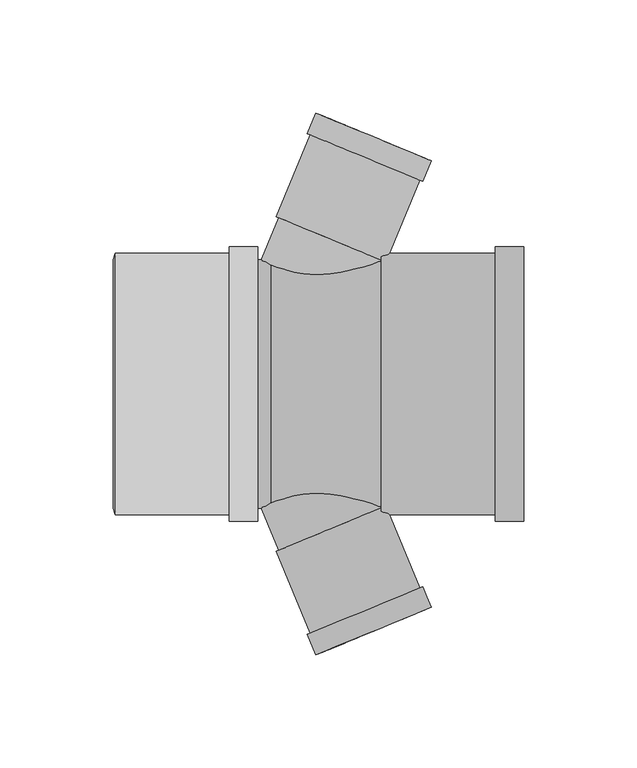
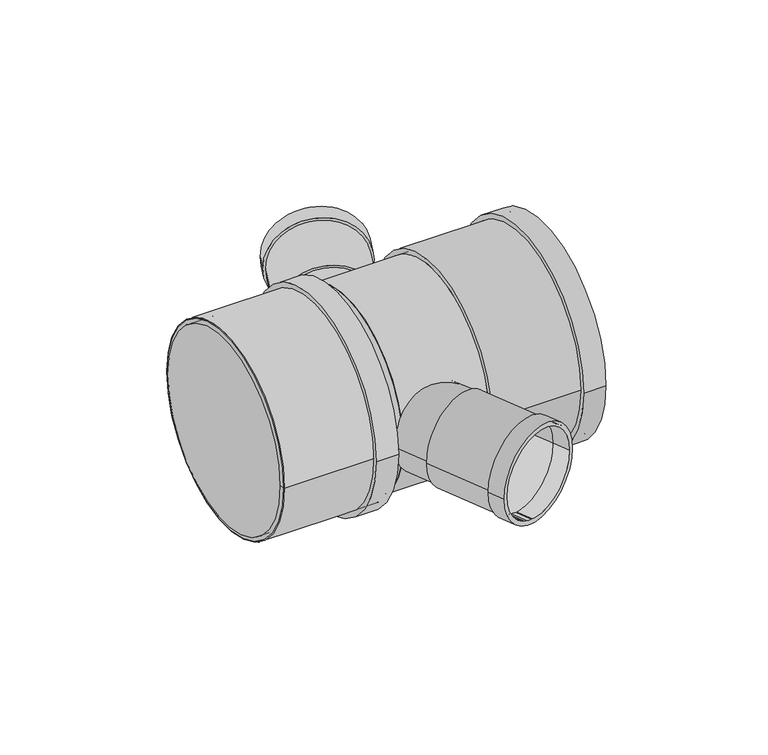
"""IFC4 building model written with IfcOpenShell, lengths in millimetres: pipe fitting geometry, Superdrain HTDA-Double Branch : Superdrain HTDA-Double Branch."""

from ifc_helpers import new_model, si_unit, point, frame, origin, origin_2d, place, context, project, spatial, polyline, circle_curve, trimmed, segment, composite_curve, outline, extrude, source, transform, mapped, element, save
from ifc_brep_helpers import plane_surface, revolved_surface, advanced_brep


def pipe_fitting_7653bf81(model_context):
    return source(origin(), model_context, "Body", "SolidModel", [
        extrude(outline(composite_curve([segment(trimmed(circle_curve(origin_2d(), 57.75), [point((57.75, 0.0))], [point((-57.75, 0.0))], False, "CARTESIAN"), True, "CONTINUOUS"), segment(trimmed(circle_curve(origin_2d(), 57.75), [point((-57.75, 0.0))], [point((57.75, 0.0))], False, "CARTESIAN"), True, "CONTINUOUS")], self_intersect=False), holes=[composite_curve([segment(trimmed(circle_curve(origin_2d(), 55.0), [point((55.0, 0.0))], [point((-55.0, 0.0))], True, "CARTESIAN"), True, "CONTINUOUS"), segment(trimmed(circle_curve(origin_2d(), 55.0), [point((-55.0, 0.0))], [point((55.0, 0.0))], True, "CARTESIAN"), True, "CONTINUOUS")], self_intersect=False)]), frame((-68.9, 0.0, 0.0), z_axis=(1.0, 0.0, 0.0), x_axis=(0.0, 1.0, 0.0)), (0.0, 0.0, 1.0), 63.0),
        extrude(outline(composite_curve([segment(trimmed(circle_curve(origin_2d(), 60.6375), [point((60.6375, 0.0))], [point((-60.6375, 0.0))], False, "CARTESIAN"), True, "CONTINUOUS"), segment(trimmed(circle_curve(origin_2d(), 60.6375), [point((-60.6375, 0.0))], [point((60.6375, 0.0))], False, "CARTESIAN"), True, "CONTINUOUS")], self_intersect=False), holes=[composite_curve([segment(trimmed(circle_curve(origin_2d(), 55.0), [point((55.0, 0.0))], [point((-55.0, 0.0))], True, "CARTESIAN"), True, "CONTINUOUS"), segment(trimmed(circle_curve(origin_2d(), 55.0), [point((-55.0, 0.0))], [point((55.0, 0.0))], True, "CARTESIAN"), True, "CONTINUOUS")], self_intersect=False)]), frame((-18.5, 0.0, 0.0), z_axis=(1.0, 0.0, 0.0), x_axis=(0.0, 1.0, 0.0)), (0.0, 0.0, 1.0), 12.6),
        advanced_brep(
        [(-69.9, 55.0, 0.0), (-69.9, -55.0, 0.0), (-68.9, 57.75, 0.0), (-68.9, -57.75, 0.0)],
        [
            (0, 1, circle_curve(frame((-69.9, 0.0, 0.0), z_axis=(-1.0, 0.0, 0.0), x_axis=(0.0, 1.0, 0.0)), 55.0)),
            (1, 0, circle_curve(frame((-69.9, 0.0, 0.0), z_axis=(-1.0, 0.0, 0.0), x_axis=(0.0, -1.0, 0.0)), 55.0)),
            (2, 3, circle_curve(frame((-68.9, 0.0, 0.0), z_axis=(1.0, 0.0, 0.0), x_axis=(0.0, -1.0, 0.0)), 57.75)),
            (3, 2, circle_curve(frame((-68.9, 0.0, 0.0), z_axis=(1.0, 0.0, 0.0), x_axis=(0.0, 1.0, 0.0)), 57.75)),
            (3, 1),
            (0, 2),
        ],
        [
            plane_surface(frame((-69.9, 0.0, 0.0), z_axis=(-1.0, 0.0, 0.0), x_axis=(0.0, 0.0, -1.0))),
            plane_surface(frame((-68.9, 0.0, 0.0), z_axis=(1.0, 0.0, 0.0), x_axis=(0.0, 0.0, -1.0))),
            revolved_surface(polyline([(-69.9, 55.0, 0.0), (-68.9, 57.75, 0.0)]), (-89.9, 0.0, 0.0), (1.0, 0.0, 0.0)),
            revolved_surface(polyline([(-69.9, -55.0, 0.0), (-68.9, -57.75, 0.0)]), (-89.9, 0.0, 0.0), (1.0, 0.0, 0.0)),
        ],
        [
            (0, [[1, 2]]),
            (1, [[3, 4]]),
            (2, [[-4, 5, -1, 6]]),
            (3, [[-3, -6, -2, -5]]),
        ],
    ),
        extrude(outline(composite_curve([segment(trimmed(circle_curve(origin_2d(), 27.5625), [point((0.0, -27.5625))], [point((0.0, 27.5625))], False, "CARTESIAN"), True, "CONTINUOUS"), segment(trimmed(circle_curve(origin_2d(), 27.5625), [point((0.0, 27.5625))], [point((0.0, -27.5625))], False, "CARTESIAN"), True, "CONTINUOUS")], self_intersect=False), holes=[composite_curve([segment(trimmed(circle_curve(origin_2d(), 25.0), [point((0.0, -25.0))], [point((0.0, 25.0))], True, "CARTESIAN"), True, "CONTINUOUS"), segment(trimmed(circle_curve(origin_2d(), 25.0), [point((0.0, 25.0))], [point((0.0, -25.0))], True, "CARTESIAN"), True, "CONTINUOUS")], self_intersect=False)]), frame((45.2331817, -109.2025607, 0.0), z_axis=(-0.3826834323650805, 0.9238795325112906, 0.0), x_axis=(0.0, 0.0, 1.0)), (0.0, 0.0, 1.0), 9.8),
        extrude(outline(composite_curve([segment(trimmed(circle_curve(origin_2d(), 26.25), [point((0.0, -26.25))], [point((0.0, 26.25))], False, "CARTESIAN"), True, "CONTINUOUS"), segment(trimmed(circle_curve(origin_2d(), 26.25), [point((0.0, 26.25))], [point((0.0, -26.25))], False, "CARTESIAN"), True, "CONTINUOUS")], self_intersect=False), holes=[composite_curve([segment(trimmed(circle_curve(origin_2d(), 25.0), [point((0.0, -25.0))], [point((0.0, 25.0))], True, "CARTESIAN"), True, "CONTINUOUS"), segment(trimmed(circle_curve(origin_2d(), 25.0), [point((0.0, 25.0))], [point((0.0, -25.0))], True, "CARTESIAN"), True, "CONTINUOUS")], self_intersect=False)]), frame((45.2331817, -109.2025607, 0.0), z_axis=(-0.38268343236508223, 0.92387953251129, 0.0), x_axis=(0.0, 0.0, 1.0)), (0.0, 0.0, 1.0), 49.0),
        extrude(outline(composite_curve([segment(trimmed(circle_curve(origin_2d(), 25.0), [point((0.0, -25.0))], [point((0.0, 25.0))], False, "CARTESIAN"), True, "CONTINUOUS"), segment(trimmed(circle_curve(origin_2d(), 25.0), [point((0.0, 25.0))], [point((0.0, -25.0))], False, "CARTESIAN"), True, "CONTINUOUS")], self_intersect=False)), frame((26.4816935, -63.9324636, 0.0), z_axis=(-0.3826834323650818, 0.9238795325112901, 0.0), x_axis=(0.0, 0.0, 1.0)), (0.0, 0.0, 1.0), 69.2),
        extrude(outline(composite_curve([segment(trimmed(circle_curve(origin_2d(), 27.5625), [point((0.0, 27.5625))], [point((0.0, -27.5625))], False, "CARTESIAN"), True, "CONTINUOUS"), segment(trimmed(circle_curve(origin_2d(), 27.5625), [point((0.0, -27.5625))], [point((0.0, 27.5625))], False, "CARTESIAN"), True, "CONTINUOUS")], self_intersect=False), holes=[composite_curve([segment(trimmed(circle_curve(origin_2d(), 25.0), [point((0.0, 25.0))], [point((0.0, -25.0))], True, "CARTESIAN"), True, "CONTINUOUS"), segment(trimmed(circle_curve(origin_2d(), 25.0), [point((0.0, -25.0))], [point((0.0, 25.0))], True, "CARTESIAN"), True, "CONTINUOUS")], self_intersect=False)]), frame((41.4828841, 100.1485413, 0.0), z_axis=(0.38268343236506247, 0.9238795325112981, 0.0), x_axis=(0.0, 0.0, 1.0)), (0.0, 0.0, 1.0), 9.8),
        extrude(outline(composite_curve([segment(trimmed(circle_curve(origin_2d(), 26.25), [point((0.0, 26.2499999))], [point((0.0, -26.25))], False, "CARTESIAN"), True, "CONTINUOUS"), segment(trimmed(circle_curve(origin_2d(), 26.25), [point((0.0, -26.25))], [point((0.0, 26.2499999))], False, "CARTESIAN"), True, "CONTINUOUS")], self_intersect=False), holes=[composite_curve([segment(trimmed(circle_curve(origin_2d(), 25.0), [point((0.0, 25.0))], [point((0.0, -25.0))], True, "CARTESIAN"), True, "CONTINUOUS"), segment(trimmed(circle_curve(origin_2d(), 25.0), [point((0.0, -25.0))], [point((0.0, 25.0))], True, "CARTESIAN"), True, "CONTINUOUS")], self_intersect=False)]), frame((26.4816935, 63.9324636, 0.0), z_axis=(0.3826834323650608, 0.9238795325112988, 0.0), x_axis=(0.0, 0.0, 1.0)), (0.0, 0.0, 1.0), 49.0),
        extrude(outline(composite_curve([segment(trimmed(circle_curve(origin_2d(), 25.0), [point((0.0, 25.0))], [point((0.0, -25.0))], False, "CARTESIAN"), True, "CONTINUOUS"), segment(trimmed(circle_curve(origin_2d(), 25.0), [point((0.0, -25.0))], [point((0.0, 25.0))], False, "CARTESIAN"), True, "CONTINUOUS")], self_intersect=False)), frame((0.0, 0.0, 0.0), z_axis=(0.3826834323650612, 0.9238795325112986, 0.0), x_axis=(0.0, 0.0, 1.0)), (0.0, 0.0, 1.0), 69.2),
        extrude(outline(composite_curve([segment(trimmed(circle_curve(origin_2d(), 60.6375), [point((-60.6375, 0.0))], [point((60.6375, 0.0))], False, "CARTESIAN"), True, "CONTINUOUS"), segment(trimmed(circle_curve(origin_2d(), 60.6375), [point((60.6375, 0.0))], [point((-60.6375, 0.0))], False, "CARTESIAN"), True, "CONTINUOUS")], self_intersect=False), holes=[composite_curve([segment(trimmed(circle_curve(origin_2d(), 57.75), [point((-57.75, 0.0))], [point((57.75, 0.0))], True, "CARTESIAN"), True, "CONTINUOUS"), segment(trimmed(circle_curve(origin_2d(), 57.75), [point((57.75, 0.0))], [point((-57.75, 0.0))], True, "CARTESIAN"), True, "CONTINUOUS")], self_intersect=False)]), frame((99.0, 0.0, 0.0), z_axis=(1.0, 0.0, 0.0), x_axis=(0.0, 1.0, 0.0)), (0.0, 0.0, 1.0), 12.6),
        extrude(outline(composite_curve([segment(trimmed(circle_curve(origin_2d(), 57.75), [point((-57.75, 0.0))], [point((57.75, 0.0))], False, "CARTESIAN"), True, "CONTINUOUS"), segment(trimmed(circle_curve(origin_2d(), 57.75), [point((57.75, 0.0))], [point((-57.75, 0.0))], False, "CARTESIAN"), True, "CONTINUOUS")], self_intersect=False), holes=[composite_curve([segment(trimmed(circle_curve(origin_2d(), 55.0), [point((-55.0, 0.0))], [point((55.0, 0.0))], True, "CARTESIAN"), True, "CONTINUOUS"), segment(trimmed(circle_curve(origin_2d(), 55.0), [point((55.0, 0.0))], [point((-55.0, 0.0))], True, "CARTESIAN"), True, "CONTINUOUS")], self_intersect=False)]), frame((48.6, 0.0, 0.0), z_axis=(1.0, 0.0, 0.0), x_axis=(0.0, 1.0, 0.0)), (0.0, 0.0, 1.0), 63.0),
        extrude(outline(composite_curve([segment(trimmed(circle_curve(origin_2d(), 55.0), [point((-55.0, 0.0))], [point((55.0, 0.0))], False, "CARTESIAN"), True, "CONTINUOUS"), segment(trimmed(circle_curve(origin_2d(), 55.0), [point((55.0, 0.0))], [point((-55.0, 0.0))], False, "CARTESIAN"), True, "CONTINUOUS")], self_intersect=False)), frame((0.0, 0.0, 0.0), z_axis=(1.0, 0.0, 0.0), x_axis=(0.0, 1.0, 0.0)), (0.0, 0.0, 1.0), 48.6),
        extrude(outline(composite_curve([segment(trimmed(circle_curve(origin_2d(), 55.0), [point((-55.0, 0.0))], [point((55.0, 0.0))], False, "CARTESIAN"), True, "CONTINUOUS"), segment(trimmed(circle_curve(origin_2d(), 55.0), [point((55.0, 0.0))], [point((-55.0, 0.0))], False, "CARTESIAN"), True, "CONTINUOUS")], self_intersect=False)), frame((-68.9, 0.0, 0.0), z_axis=(1.0, 0.0, 0.0), x_axis=(0.0, 1.0, 0.0)), (0.0, 0.0, 1.0), 68.9),
    ])


if __name__ == "__main__":
    model = new_model("IFC4")
    model_context = context("Model", 3, world=origin())
    ifc_project = project(units=[si_unit("LENGTHUNIT", "METRE", prefix="MILLI")], contexts=[model_context])
    site = spatial("IfcSite", under=ifc_project)
    building = spatial("IfcBuilding", under=site)
    placement = place(None, origin())
    pipe_fitting_shape = pipe_fitting_7653bf81(model_context)
    element("IfcPipeFitting", 1, ObjectType="Superdrain HTDA-Double Branch : Superdrain HTDA-Double Branch", at=placement, inside=building, context=model_context, shape_type="MappedRepresentation", body=[
        mapped(pipe_fitting_shape, transform((0.0, 0.0, 0.0), x_axis=(1.0, 0.0, 0.0), y_axis=(0.0, 1.0, 0.0), z_axis=(0.0, 0.0, 1.0))),
    ])
    save(model, "model.ifc")
